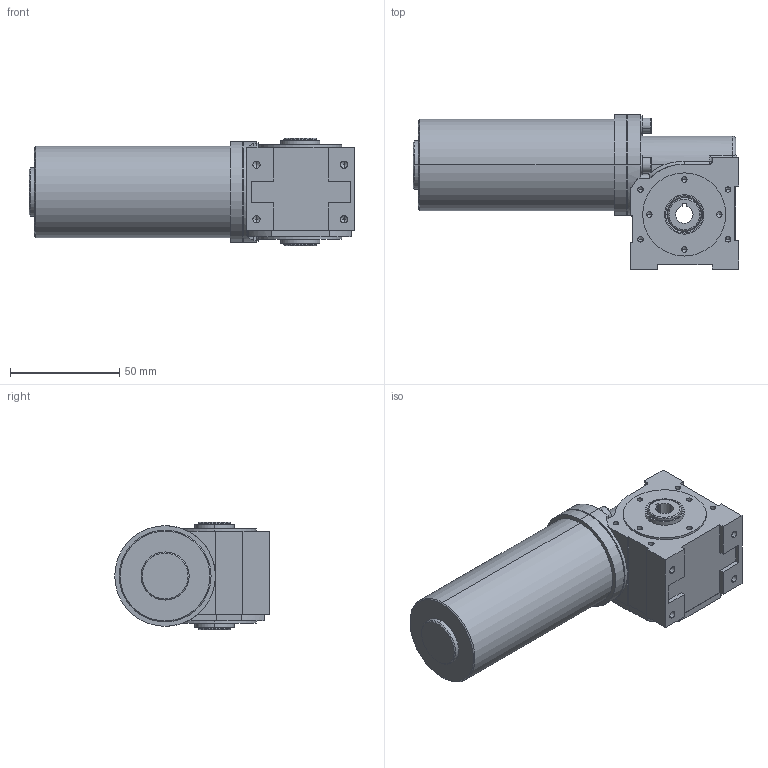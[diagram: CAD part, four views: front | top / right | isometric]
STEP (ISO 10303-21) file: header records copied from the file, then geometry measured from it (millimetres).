
FILE_DESCRIPTION (( 'STEP AP214' ), '1' );
FILE_NAME ('GP-SN15H_28W_3000Upm.STEP', '2021-09-23T06:36:19', ( '' ), ( '' ), 'SwSTEP 2.0', 'SolidWorks 2019', '' );
FILE_SCHEMA (( 'AUTOMOTIVE_DESIGN' ));
Length unit declared in the file: millimetre
Products named in the file (10): NBR_WDR_15x21x3; SN15H_3D-Export; socket head cap screw_iso_ISO 4762 M4 x 12 - 12C; 15H-G-005_3D-Export; GP-SN15H_28W_3000Upm; 15H-D-004_3D-Export; 15-M-002 I 28W_3000Upm; hexa csunk flathd screw_iso_ISO 14581 M3x8x8-N; 15H-W-001_3D-Export; plain washer normal grade a_iso_Washer ISO 7089 - 4
Assembly tree (17 placements, depth 3):
  GP-SN15H_28W_3000Upm
    SN15H_3D-Export
      15H-G-005_3D-Export
      15H-D-004_3D-Export
      15H-W-001_3D-Export
      NBR_WDR_15x21x3  x2
      hexa csunk flathd screw_iso_ISO 14581 M3x8x8-N  x4
      plain washer normal grade a_iso_Washer ISO 7089 - 4  x3
      socket head cap screw_iso_ISO 4762 M4 x 12 - 12C  x3
    15-M-002 I 28W_3000Upm
Bounding box: 149 x 70.62 x 49 mm (x, y, z)
Volume: 240326.3 mm3; surface area: 52210.4 mm2
Topology: 16 solids, 16 shells, 615 faces, 1452 edges, 857 vertices
Faces by surface type: cylinder 266, plane 168, cone 150, torus 25, bspline 4, sphere 2
Entity records: 13836 total; most frequent: CARTESIAN_POINT 2653, DIRECTION 2264, ORIENTED_EDGE 1976, EDGE_CURVE 988, AXIS2_PLACEMENT_3D 874, VERTEX_POINT 607, VECTOR 516, LINE 516
